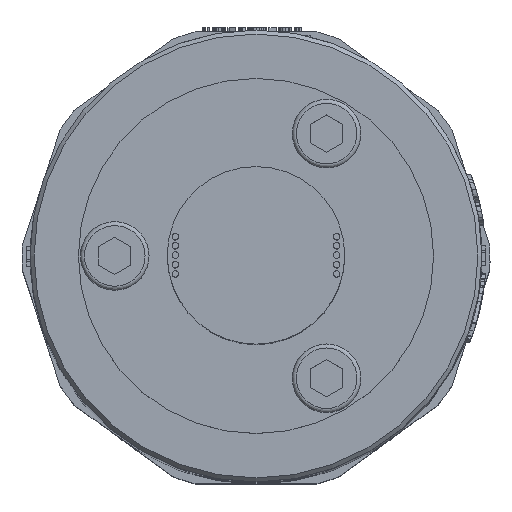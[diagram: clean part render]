
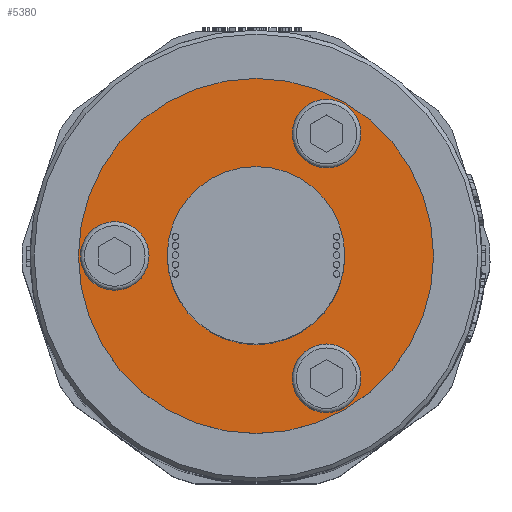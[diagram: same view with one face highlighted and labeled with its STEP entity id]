
A CAD part, top view. The second image highlights one B-rep face of the part: STEP entity #5380.
In plain terms, the highlighted planar face has unit normal (0, 0, 1).
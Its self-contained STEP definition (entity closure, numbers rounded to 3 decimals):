
#684=FACE_BOUND('',#8709,.T.);
#685=FACE_BOUND('',#8710,.T.);
#686=FACE_BOUND('',#8711,.T.);
#687=FACE_BOUND('',#8712,.T.);
#688=FACE_BOUND('',#8713,.T.);
#1125=CIRCLE('',#24639,4.25);
#1127=CIRCLE('',#24650,4.25);
#1130=CIRCLE('',#24663,4.25);
#1154=CIRCLE('',#24720,11.);
#1155=CIRCLE('',#24722,22.);
#5380=ADVANCED_FACE('',(#684,#685,#686,#687,#688),#6435,.T.);
#6435=PLANE('',#24723);
#8709=EDGE_LOOP('',(#12852));
#8710=EDGE_LOOP('',(#12853));
#8711=EDGE_LOOP('',(#12854));
#8712=EDGE_LOOP('',(#12855));
#8713=EDGE_LOOP('',(#12856));
#12852=ORIENTED_EDGE('',*,*,#20426,.F.);
#12853=ORIENTED_EDGE('',*,*,#20440,.F.);
#12854=ORIENTED_EDGE('',*,*,#20461,.F.);
#12855=ORIENTED_EDGE('',*,*,#20504,.T.);
#12856=ORIENTED_EDGE('',*,*,#20503,.F.);
#17706=VERTEX_POINT('',#38366);
#17714=VERTEX_POINT('',#38397);
#17729=VERTEX_POINT('',#38443);
#17765=VERTEX_POINT('',#38554);
#17766=VERTEX_POINT('',#38557);
#20426=EDGE_CURVE('',#17706,#17706,#1125,.T.);
#20440=EDGE_CURVE('',#17714,#17714,#1127,.T.);
#20461=EDGE_CURVE('',#17729,#17729,#1130,.T.);
#20503=EDGE_CURVE('',#17765,#17765,#1154,.T.);
#20504=EDGE_CURVE('',#17766,#17766,#1155,.T.);
#24639=AXIS2_PLACEMENT_3D('',#38365,#27264,#27265);
#24650=AXIS2_PLACEMENT_3D('',#38396,#27298,#27299);
#24663=AXIS2_PLACEMENT_3D('',#38442,#27342,#27343);
#24720=AXIS2_PLACEMENT_3D('',#38553,#27474,#27475);
#24722=AXIS2_PLACEMENT_3D('',#38556,#27478,#27479);
#24723=AXIS2_PLACEMENT_3D('',#38558,#27480,#27481);
#27264=DIRECTION('',(0.,0.,1.));
#27265=DIRECTION('',(-0.866,0.5,0.));
#27298=DIRECTION('',(0.,0.,1.));
#27299=DIRECTION('',(-0.866,0.5,0.));
#27342=DIRECTION('',(0.,0.,1.));
#27343=DIRECTION('',(-0.866,0.5,0.));
#27474=DIRECTION('',(0.,0.,1.));
#27475=DIRECTION('',(1.,0.,0.));
#27478=DIRECTION('',(0.,0.,1.));
#27479=DIRECTION('',(1.,0.,0.));
#27480=DIRECTION('',(0.,0.,1.));
#27481=DIRECTION('',(-1.,0.,0.));
#38365=CARTESIAN_POINT('',(8.75,-15.155,152.5));
#38366=CARTESIAN_POINT('',(5.069,-13.03,152.5));
#38396=CARTESIAN_POINT('',(8.75,15.155,152.5));
#38397=CARTESIAN_POINT('',(5.069,17.28,152.5));
#38442=CARTESIAN_POINT('',(-17.5,0.,152.5));
#38443=CARTESIAN_POINT('',(-21.181,2.125,152.5));
#38553=CARTESIAN_POINT('',(0.,0.,152.5));
#38554=CARTESIAN_POINT('',(11.,0.,152.5));
#38556=CARTESIAN_POINT('',(0.,0.,152.5));
#38557=CARTESIAN_POINT('',(22.,0.,152.5));
#38558=CARTESIAN_POINT('',(0.,0.,152.5));
